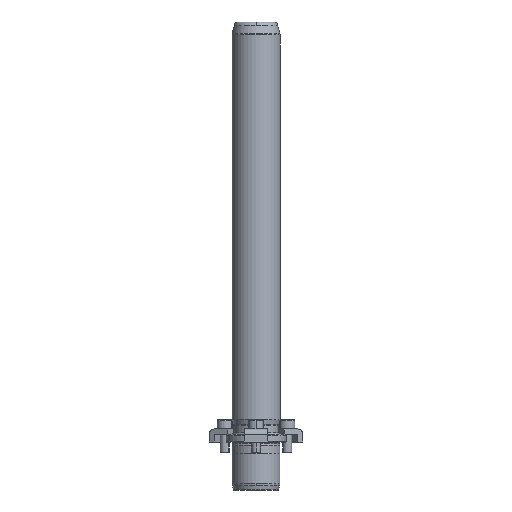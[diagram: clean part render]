
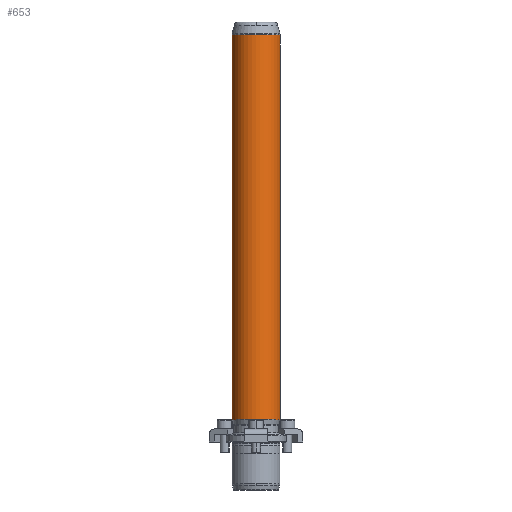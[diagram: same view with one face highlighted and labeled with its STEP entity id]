
A CAD part, front view. The second image highlights one B-rep face of the part: STEP entity #653.
In plain terms, the highlighted cylindrical face has radius 16 mm (diameter 32 mm), a partial arc.
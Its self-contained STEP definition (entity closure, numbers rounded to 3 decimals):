
#566=CARTESIAN_POINT('',(0.0,-16.,271.342));
#567=VERTEX_POINT('',#566);
#594=CARTESIAN_POINT('',(-16.0,0.,271.342));
#595=VERTEX_POINT('',#594);
#603=CARTESIAN_POINT('',(0.0,0.,271.342));
#604=DIRECTION('',(0.0,0.0,1.0));
#605=DIRECTION('',(1.0,0.0,0.0));
#606=AXIS2_PLACEMENT_3D('',#603,#604,#605);
#607=CIRCLE('',#606,16.0);
#608=EDGE_CURVE('',#595,#567,#607,.T.);
#613=CARTESIAN_POINT('',(0.0,0.,143.171));
#614=DIRECTION('',(0.0,0.,1.0));
#615=DIRECTION('',(1.0,0.0,0.0));
#616=AXIS2_PLACEMENT_3D('',#613,#614,#615);
#617=CYLINDRICAL_SURFACE('',#616,16.0);
#618=CARTESIAN_POINT('',(16.0,0.,271.342));
#619=VERTEX_POINT('',#618);
#620=CARTESIAN_POINT('',(16.0,0.,15.0));
#621=VERTEX_POINT('',#620);
#622=CARTESIAN_POINT('',(16.0,0.,271.342));
#623=DIRECTION('',(0.0,0.0,-1.0));
#624=VECTOR('',#623,256.342);
#625=LINE('',#622,#624);
#626=EDGE_CURVE('',#619,#621,#625,.T.);
#627=ORIENTED_EDGE('',*,*,#626,.F.);
#628=CARTESIAN_POINT('',(0.0,0.,271.342));
#629=DIRECTION('',(0.0,0.0,1.0));
#630=DIRECTION('',(1.0,0.0,0.0));
#631=AXIS2_PLACEMENT_3D('',#628,#629,#630);
#632=CIRCLE('',#631,16.0);
#633=EDGE_CURVE('',#567,#619,#632,.T.);
#634=ORIENTED_EDGE('',*,*,#633,.F.);
#635=ORIENTED_EDGE('',*,*,#608,.F.);
#636=CARTESIAN_POINT('',(-16.0,0.,15.0));
#637=VERTEX_POINT('',#636);
#638=CARTESIAN_POINT('',(-16.0,0.,271.342));
#639=DIRECTION('',(0.0,0.0,-1.0));
#640=VECTOR('',#639,256.342);
#641=LINE('',#638,#640);
#642=EDGE_CURVE('',#595,#637,#641,.T.);
#643=ORIENTED_EDGE('',*,*,#642,.T.);
#644=CARTESIAN_POINT('',(0.0,0.,15.0));
#645=DIRECTION('',(0.0,0.0,1.0));
#646=DIRECTION('',(1.0,0.0,0.0));
#647=AXIS2_PLACEMENT_3D('',#644,#645,#646);
#648=CIRCLE('',#647,16.0);
#649=EDGE_CURVE('',#637,#621,#648,.T.);
#650=ORIENTED_EDGE('',*,*,#649,.T.);
#651=EDGE_LOOP('',(#627,#634,#635,#643,#650));
#652=FACE_OUTER_BOUND('',#651,.T.);
#653=ADVANCED_FACE('',(#652),#617,.T.);
